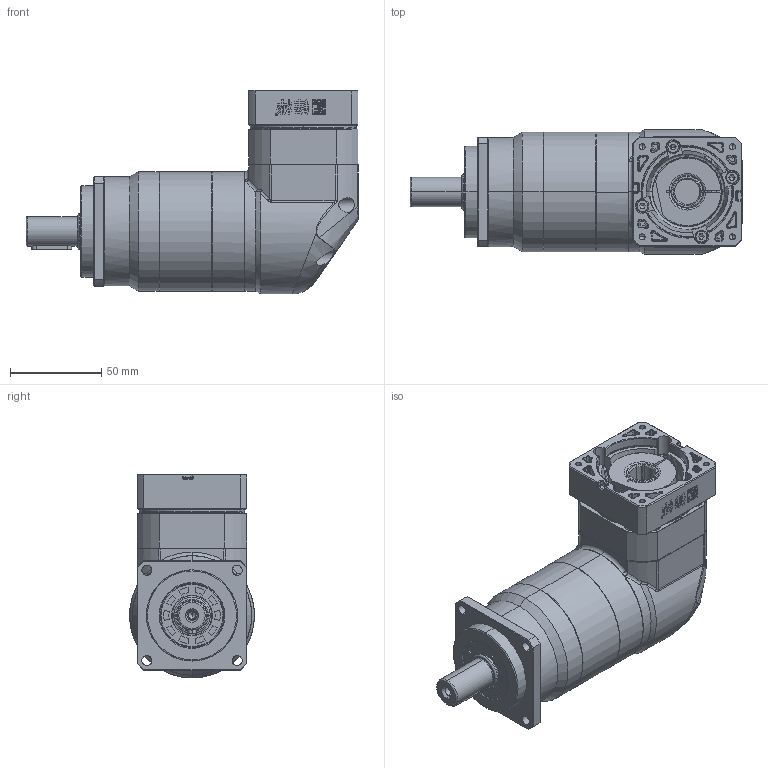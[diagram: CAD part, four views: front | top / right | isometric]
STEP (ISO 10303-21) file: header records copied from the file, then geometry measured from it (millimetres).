
FILE_DESCRIPTION (( 'STEP AP214' ), '1' );
FILE_NAME ('EVB060-L2-S2-P2 14-50-70-M4.STEP', '2021-04-24T03:14:28', ( 'User' ), ( 'china' ), 'SwSTEP 2.0', 'SolidWorks 2016', '' );
FILE_SCHEMA (( 'AUTOMOTIVE_DESIGN' ));
Length unit declared in the file: millimetre
Products named in the file (14): A倰す瑩5-22; 蚐猾20355; 060D怀堤俴陎殤1; 060D齿圈; hex socket set screws with cone point gb_GB_FASTENER_SCREWS_HSCP M10X10-N; hexagon socket head cap screws gb_GB_FASTENER_SCREWS_HSHCS M4X16-N; 输入太阳齿轮060D-14; 2-输入端壳体EVB060D.; 9-怀堤傷褲极EVB064D; 坶踡遠18-37-12(1); 11-输入法兰EVB060D-50-70-M4; 珨撰眻褒眊极EVB064D-5.27; EVB060-L2-S2-P2 14-50-70-M4; EVB064D一级内齿圈
Assembly tree (17 placements, depth 2):
  EVB060-L2-S2-P2 14-50-70-M4
    珨撰眻褒眊极EVB064D-5.27
    11-输入法兰EVB060D-50-70-M4
    坶踡遠18-37-12(1)
    9-怀堤傷褲极EVB064D
    2-输入端壳体EVB060D.
    输入太阳齿轮060D-14
    hexagon socket head cap screws gb_GB_FASTENER_SCREWS_HSHCS M4X16-N  x5
    hex socket set screws with cone point gb_GB_FASTENER_SCREWS_HSCP M10X10-N
    060D齿圈
    060D怀堤俴陎殤1
    蚐猾20355
    A倰す瑩5-22
    EVB064D一级内齿圈
Bounding box: 182 x 68.5 x 111.75 mm (x, y, z)
Volume: 614502.5 mm3; surface area: 116574.8 mm2
Topology: 18 solids, 18 shells, 1438 faces, 3610 edges, 2239 vertices
Faces by surface type: plane 550, cylinder 342, bspline 321, cone 197, torus 28
Entity records: 67708 total; most frequent: CARTESIAN_POINT 22192, ORIENTED_EDGE 6662, DIRECTION 5667, EDGE_CURVE 3331, VERTEX_POINT 2107, AXIS2_PLACEMENT_3D 2032, VECTOR 1603, LINE 1603
